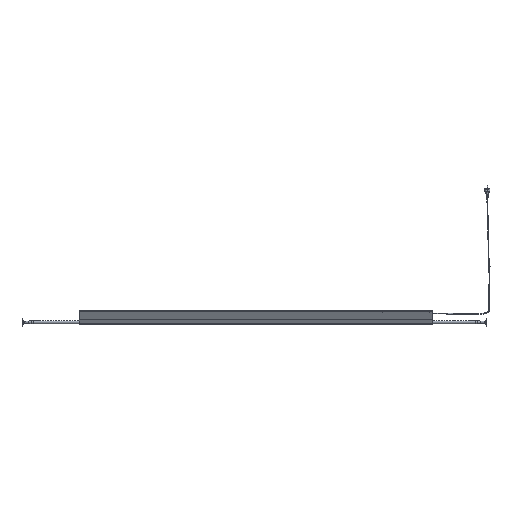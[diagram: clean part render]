
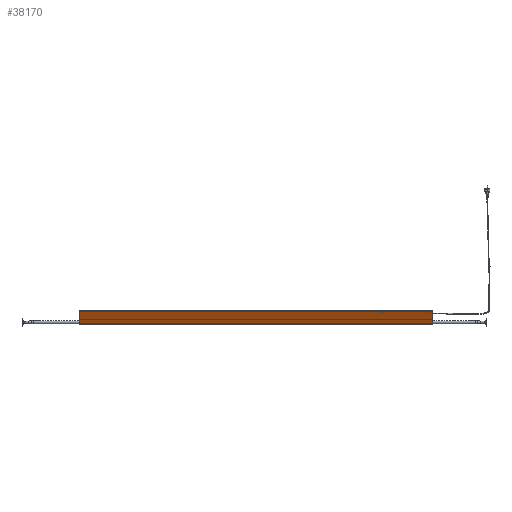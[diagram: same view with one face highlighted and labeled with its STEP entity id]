
A CAD part, left-side view. The second image highlights one B-rep face of the part: STEP entity #38170.
In plain terms, the highlighted planar face has unit normal (-0.862, 0, -0.507).
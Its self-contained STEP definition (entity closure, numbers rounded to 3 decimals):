
#770 = LINE ( 'NONE', #32818, #26718 ) ;
#2159 = CARTESIAN_POINT ( 'NONE',  ( -63.956, -1315., 81.977 ) ) ;
#2563 = DIRECTION ( 'NONE',  ( 0., -1., 0. ) ) ;
#2568 = ORIENTED_EDGE ( 'NONE', *, *, #20098, .F. ) ;
#5370 = LINE ( 'NONE', #22424, #40025 ) ;
#6027 = ORIENTED_EDGE ( 'NONE', *, *, #7073, .T. ) ;
#7073 = EDGE_CURVE ( 'NONE', #36169, #35572, #30038, .T. ) ;
#7409 = DIRECTION ( 'NONE',  ( -0.508, 0., 0.862 ) ) ;
#9583 = VECTOR ( 'NONE', #15483, 1000. ) ;
#10118 = EDGE_CURVE ( 'NONE', #38525, #36169, #5370, .T. ) ;
#11870 = VECTOR ( 'NONE', #7409, 1000. ) ;
#13787 = DIRECTION ( 'NONE',  ( 0.862, 0., 0.508 ) ) ;
#15121 = CARTESIAN_POINT ( 'NONE',  ( -11.632, -1315., -6.852 ) ) ;
#15483 = DIRECTION ( 'NONE',  ( 0., -1., 0. ) ) ;
#16339 = PLANE ( 'NONE',  #38835 ) ;
#18499 = CARTESIAN_POINT ( 'NONE',  ( -63.956, 1315., 81.977 ) ) ;
#18673 = CARTESIAN_POINT ( 'NONE',  ( -63.956, 1315., 81.977 ) ) ;
#20098 = EDGE_CURVE ( 'NONE', #38525, #35405, #770, .T. ) ;
#21868 = LINE ( 'NONE', #18673, #9583 ) ;
#22424 = CARTESIAN_POINT ( 'NONE',  ( -11.632, 1315., -6.852 ) ) ;
#22952 = CARTESIAN_POINT ( 'NONE',  ( -11.632, 1315., -6.852 ) ) ;
#22989 = DIRECTION ( 'NONE',  ( -0.508, 0., 0.862 ) ) ;
#23058 = ORIENTED_EDGE ( 'NONE', *, *, #37596, .F. ) ;
#26372 = FACE_OUTER_BOUND ( 'NONE', #28269, .T. ) ;
#26718 = VECTOR ( 'NONE', #22989, 1000. ) ;
#28269 = EDGE_LOOP ( 'NONE', ( #6027, #23058, #2568, #35714 ) ) ;
#29365 = DIRECTION ( 'NONE',  ( 0.508, 0., -0.862 ) ) ;
#30038 = LINE ( 'NONE', #30254, #11870 ) ;
#30254 = CARTESIAN_POINT ( 'NONE',  ( -11.632, -1315., -6.852 ) ) ;
#31482 = CARTESIAN_POINT ( 'NONE',  ( -11.632, 1315., -6.852 ) ) ;
#32818 = CARTESIAN_POINT ( 'NONE',  ( -11.632, 1315., -6.852 ) ) ;
#35405 = VERTEX_POINT ( 'NONE', #18499 ) ;
#35572 = VERTEX_POINT ( 'NONE', #2159 ) ;
#35714 = ORIENTED_EDGE ( 'NONE', *, *, #10118, .T. ) ;
#36169 = VERTEX_POINT ( 'NONE', #15121 ) ;
#37596 = EDGE_CURVE ( 'NONE', #35405, #35572, #21868, .T. ) ;
#38170 = ADVANCED_FACE ( 'NONE', ( #26372 ), #16339, .F. ) ;
#38525 = VERTEX_POINT ( 'NONE', #31482 ) ;
#38835 = AXIS2_PLACEMENT_3D ( 'NONE', #22952, #13787, #29365 ) ;
#40025 = VECTOR ( 'NONE', #2563, 1000. ) ;
